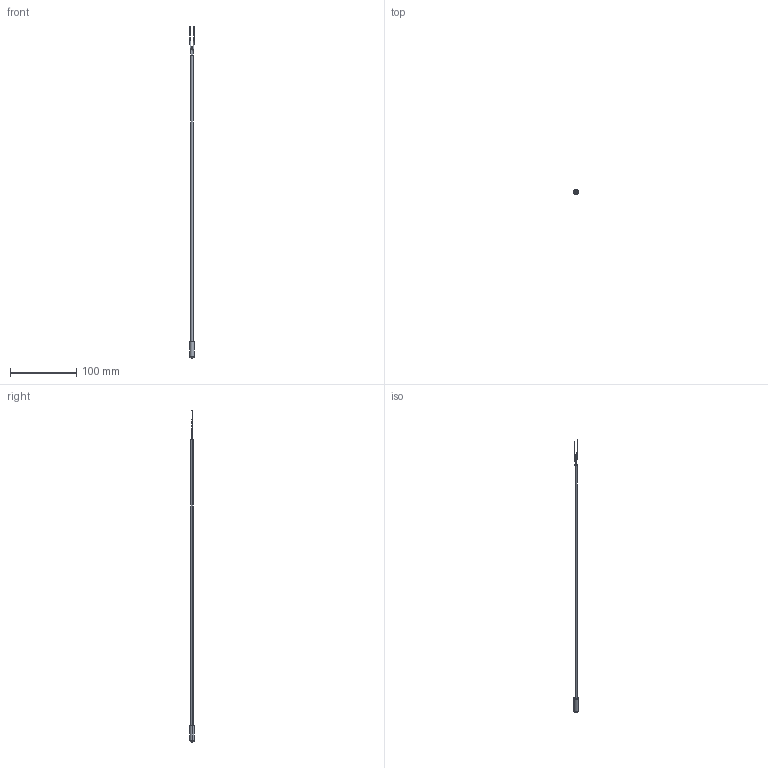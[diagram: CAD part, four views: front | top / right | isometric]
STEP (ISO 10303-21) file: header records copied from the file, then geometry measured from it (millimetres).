
FILE_DESCRIPTION (( 'STEP AP214' ), '1' );
FILE_NAME ('NTCACAPE3C90144.STEP', '2014-09-08T09:36:23', ( 'Vishay Intertechnology, Inc.' ), ( 'Vishay Intertechnology, Inc.' ), 'SwSTEP 2.0', 'SolidWorks 2014', '' );
FILE_SCHEMA (( 'AUTOMOTIVE_DESIGN' ));
Length unit declared in the file: millimetre
Products named in the file (5): NTCACAPE3C90144; SW_238164190144_Jacket; SW_238164190144_Housing; SW_238164190144_RedCable; SW_238164190144_BlueCable
Assembly tree (4 placements, depth 2):
  NTCACAPE3C90144
    SW_238164190144_RedCable
    SW_238164190144_BlueCable
    SW_238164190144_Jacket
    SW_238164190144_Housing
Bounding box: 7.65 x 7 x 500 mm (x, y, z)
Volume: 6450 mm3; surface area: 6385 mm2
Topology: 4 solids, 4 shells, 26 faces, 48 edges, 30 vertices
Faces by surface type: cylinder 8, plane 8, bspline 4, cone 4, torus 2
Entity records: 1014 total; most frequent: CARTESIAN_POINT 295, DIRECTION 134, ORIENTED_EDGE 96, AXIS2_PLACEMENT_3D 61, EDGE_CURVE 48, CIRCLE 32, VERTEX_POINT 30, EDGE_LOOP 26
